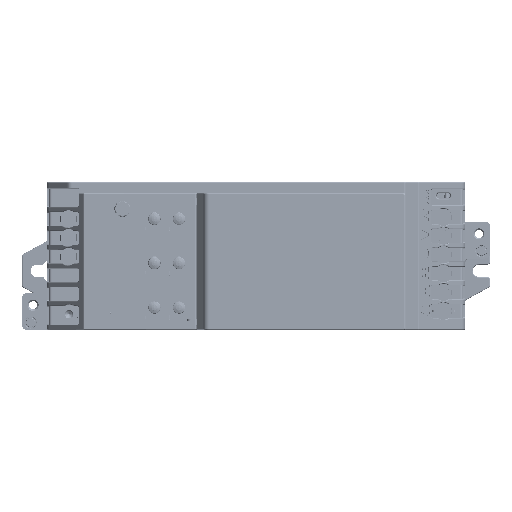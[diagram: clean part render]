
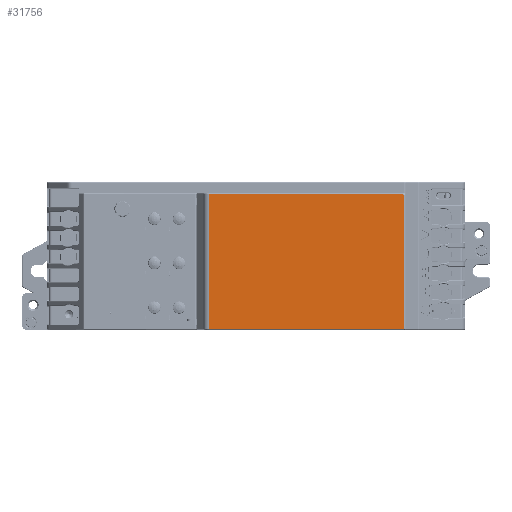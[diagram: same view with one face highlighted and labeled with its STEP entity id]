
A CAD part, left-side view. The second image highlights one B-rep face of the part: STEP entity #31756.
In plain terms, the highlighted planar face has unit normal (-1, 0, 0).
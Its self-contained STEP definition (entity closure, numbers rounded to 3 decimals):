
#27274=CARTESIAN_POINT('',(-123.5,-59.8,54.7));
#27275=DIRECTION('',(1.,0.,0.));
#27276=DIRECTION('',(0.,0.,1.));
#27277=AXIS2_PLACEMENT_3D('',#27274,#27275,#27276);
#27279=CARTESIAN_POINT('',(-123.5,-59.8,0.8));
#27280=DIRECTION('',(1.,0.,0.));
#27281=DIRECTION('',(0.,-1.,0.));
#27282=AXIS2_PLACEMENT_3D('',#27279,#27280,#27281);
#27284=DIRECTION('',(0.,1.,0.));
#27285=VECTOR('',#27284,78.75);
#27286=CARTESIAN_POINT('',(-123.5,-59.8,55.));
#27287=LINE('',#27286,#27285);
#27307=DIRECTION('',(0.,0.,-1.));
#27308=VECTOR('',#27307,54.5);
#27309=CARTESIAN_POINT('',(-123.5,18.95,55.));
#27310=LINE('',#27309,#27308);
#27330=DIRECTION('',(0.,-1.,0.));
#27331=VECTOR('',#27330,78.75);
#27332=CARTESIAN_POINT('',(-123.5,18.95,0.5));
#27333=LINE('',#27332,#27331);
#27353=DIRECTION('',(0.,0.,1.));
#27354=VECTOR('',#27353,53.9);
#27355=CARTESIAN_POINT('',(-123.5,-60.1,0.8));
#27356=LINE('',#27355,#27354);
#30900=CARTESIAN_POINT('',(-123.5,-59.8,55.));
#30901=CARTESIAN_POINT('',(-123.5,-60.1,54.7));
#30902=VERTEX_POINT('',#30900);
#30903=VERTEX_POINT('',#30901);
#30904=CARTESIAN_POINT('',(-123.5,18.95,55.));
#30905=VERTEX_POINT('',#30904);
#30906=CARTESIAN_POINT('',(-123.5,-60.1,0.8));
#30907=VERTEX_POINT('',#30906);
#30908=CARTESIAN_POINT('',(-123.5,-59.8,0.5));
#30909=VERTEX_POINT('',#30908);
#30910=CARTESIAN_POINT('',(-123.5,18.95,0.5));
#30911=VERTEX_POINT('',#30910);
#31738=CARTESIAN_POINT('',(-123.5,-20.575,27.75));
#31739=DIRECTION('',(1.,0.,0.));
#31740=DIRECTION('',(0.,-1.,0.));
#31741=AXIS2_PLACEMENT_3D('',#31738,#31739,#31740);
#31742=PLANE('',#31741);
#31744=ORIENTED_EDGE('',*,*,#31743,.F.);
#31745=ORIENTED_EDGE('',*,*,#31728,.T.);
#31747=ORIENTED_EDGE('',*,*,#31746,.F.);
#31749=ORIENTED_EDGE('',*,*,#31748,.T.);
#31751=ORIENTED_EDGE('',*,*,#31750,.F.);
#31753=ORIENTED_EDGE('',*,*,#31752,.F.);
#31754=EDGE_LOOP('',(#31744,#31745,#31747,#31749,#31751,#31753));
#31755=FACE_OUTER_BOUND('',#31754,.F.);
#31756=ADVANCED_FACE('',(#31755),#31742,.F.);
#27278=CIRCLE('',#27277,0.3);
#27283=CIRCLE('',#27282,0.3);
#31728=EDGE_CURVE('',#30902,#30903,#27278,.T.);
#31743=EDGE_CURVE('',#30902,#30905,#27287,.T.);
#31746=EDGE_CURVE('',#30907,#30903,#27356,.T.);
#31748=EDGE_CURVE('',#30907,#30909,#27283,.T.);
#31750=EDGE_CURVE('',#30911,#30909,#27333,.T.);
#31752=EDGE_CURVE('',#30905,#30911,#27310,.T.);
